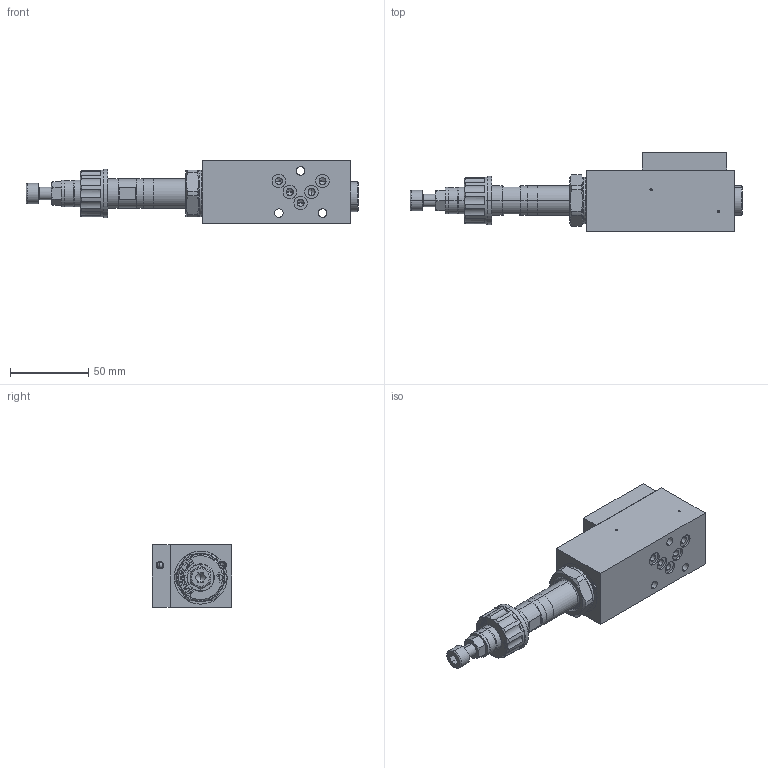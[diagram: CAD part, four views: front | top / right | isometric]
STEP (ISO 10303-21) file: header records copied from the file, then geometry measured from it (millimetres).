
FILE_DESCRIPTION (( 'STEP AP214' ), '1' );
FILE_NAME ('B.IFA04-P.STEP', '2017-03-23T14:56:39', ( '' ), ( '' ), 'SwSTEP 2.0', 'SolidWorks 2016', '' );
FILE_SCHEMA (( 'AUTOMOTIVE_DESIGN' ));
Length unit declared in the file: millimetre
Products named in the file (1): B.IFA04-P
Bounding box: 212.5 x 51 x 40 mm (x, y, z)
Volume: 205354.3 mm3; surface area: 42855.1 mm2
Topology: 4 solids, 8 shells, 501 faces, 1218 edges, 758 vertices
Faces by surface type: plane 218, cylinder 146, cone 91, bspline 22, torus 16, sphere 8
Entity records: 21290 total; most frequent: CARTESIAN_POINT 4028, DIRECTION 2461, ORIENTED_EDGE 2376, EDGE_CURVE 1188, AXIS2_PLACEMENT_3D 911, VERTEX_POINT 758, LINE 639, VECTOR 639
